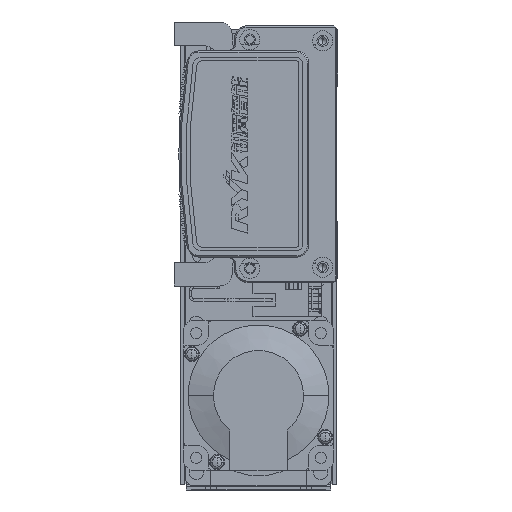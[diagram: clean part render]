
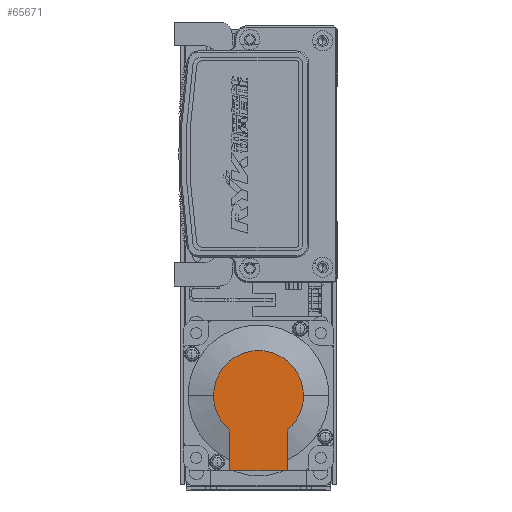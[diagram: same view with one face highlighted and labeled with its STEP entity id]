
A CAD part, left-side view. The second image highlights one B-rep face of the part: STEP entity #65671.
In plain terms, the highlighted planar face has unit normal (-1, 0, 0).
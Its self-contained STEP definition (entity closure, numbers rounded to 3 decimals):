
#20202 = CARTESIAN_POINT ( 'NONE',  ( -99., 0., 17.881 ) ) ;
#20219 = CARTESIAN_POINT ( 'NONE',  ( -99., 13.735, 11.45 ) ) ;
#20231 = CARTESIAN_POINT ( 'NONE',  ( -99., 0., -17.881 ) ) ;
#20352 = CARTESIAN_POINT ( 'NONE',  ( -99., 30., -11.45 ) ) ;
#20375 = CARTESIAN_POINT ( 'NONE',  ( -99., 13.735, -11.45 ) ) ;
#20382 = CARTESIAN_POINT ( 'NONE',  ( -99., 30., 11.45 ) ) ;
#23336 = DIRECTION ( 'NONE',  ( -1., 0., 0. ) ) ;
#23340 = DIRECTION ( 'NONE',  ( 0., 0., -1. ) ) ;
#23345 = DIRECTION ( 'NONE',  ( 0., 0., -1. ) ) ;
#23362 = CARTESIAN_POINT ( 'NONE',  ( -99., 0., 0. ) ) ;
#23373 = DIRECTION ( 'NONE',  ( -1., 0., 0. ) ) ;
#23385 = CARTESIAN_POINT ( 'NONE',  ( -99., 0., 0. ) ) ;
#24862 = CIRCLE ( 'NONE', #72064, 17.881 ) ;
#24984 = CIRCLE ( 'NONE', #72065, 17.881 ) ;
#25654 = CIRCLE ( 'NONE', #70470, 17.881 ) ;
#25814 = VECTOR ( 'NONE', #27253, 1000. ) ;
#25828 = LINE ( 'NONE', #27254, #25814 ) ;
#25836 = LINE ( 'NONE', #27293, #25854 ) ;
#25854 = VECTOR ( 'NONE', #27287, 1000. ) ;
#25920 = VECTOR ( 'NONE', #27387, 1000. ) ;
#25954 = LINE ( 'NONE', #27416, #25920 ) ;
#27179 = DIRECTION ( 'NONE',  ( 0., 0., -1. ) ) ;
#27180 = CARTESIAN_POINT ( 'NONE',  ( -99., 0., 0. ) ) ;
#27188 = DIRECTION ( 'NONE',  ( -1., 0., 0. ) ) ;
#27253 = DIRECTION ( 'NONE',  ( 0., -1., 0. ) ) ;
#27254 = CARTESIAN_POINT ( 'NONE',  ( -99., -8.941, -11.45 ) ) ;
#27287 = DIRECTION ( 'NONE',  ( 0., -1., 0. ) ) ;
#27293 = CARTESIAN_POINT ( 'NONE',  ( -99., 0., 11.45 ) ) ;
#27387 = DIRECTION ( 'NONE',  ( 0., 0., 1. ) ) ;
#27416 = CARTESIAN_POINT ( 'NONE',  ( -99., 30., 25. ) ) ;
#30160 = AXIS2_PLACEMENT_3D ( 'NONE', #58849, #58839, #58817 ) ;
#45553 = ORIENTED_EDGE ( 'NONE', *, *, #62495, .T. ) ;
#45597 = ORIENTED_EDGE ( 'NONE', *, *, #61928, .T. ) ;
#45627 = ORIENTED_EDGE ( 'NONE', *, *, #62551, .F. ) ;
#45648 = ORIENTED_EDGE ( 'NONE', *, *, #61951, .T. ) ;
#45716 = ORIENTED_EDGE ( 'NONE', *, *, #62644, .F. ) ;
#45719 = ORIENTED_EDGE ( 'NONE', *, *, #62567, .T. ) ;
#47944 = VERTEX_POINT ( 'NONE', #20231 ) ;
#47979 = VERTEX_POINT ( 'NONE', #20202 ) ;
#47991 = VERTEX_POINT ( 'NONE', #20219 ) ;
#48206 = VERTEX_POINT ( 'NONE', #20352 ) ;
#48254 = VERTEX_POINT ( 'NONE', #20375 ) ;
#48298 = VERTEX_POINT ( 'NONE', #20382 ) ;
#55624 = FACE_OUTER_BOUND ( 'NONE', #76526, .T. ) ;
#58817 = DIRECTION ( 'NONE',  ( 0., 0., 1. ) ) ;
#58822 = PLANE ( 'NONE',  #30160 ) ;
#58839 = DIRECTION ( 'NONE',  ( -1., 0., 0. ) ) ;
#58849 = CARTESIAN_POINT ( 'NONE',  ( -99., -8.941, 0. ) ) ;
#61928 = EDGE_CURVE ( 'NONE', #47944, #47979, #24862, .T. ) ;
#61951 = EDGE_CURVE ( 'NONE', #47979, #47991, #24984, .T. ) ;
#62495 = EDGE_CURVE ( 'NONE', #48254, #47944, #25654, .T. ) ;
#62551 = EDGE_CURVE ( 'NONE', #48298, #47991, #25836, .T. ) ;
#62567 = EDGE_CURVE ( 'NONE', #48206, #48254, #25828, .T. ) ;
#62644 = EDGE_CURVE ( 'NONE', #48206, #48298, #25954, .T. ) ;
#65671 = ADVANCED_FACE ( 'NONE', ( #55624 ), #58822, .T. ) ;
#70470 = AXIS2_PLACEMENT_3D ( 'NONE', #27180, #27188, #27179 ) ;
#72064 = AXIS2_PLACEMENT_3D ( 'NONE', #23362, #23336, #23345 ) ;
#72065 = AXIS2_PLACEMENT_3D ( 'NONE', #23385, #23373, #23340 ) ;
#76526 = EDGE_LOOP ( 'NONE', ( #45719, #45553, #45597, #45648, #45627, #45716 ) ) ;
